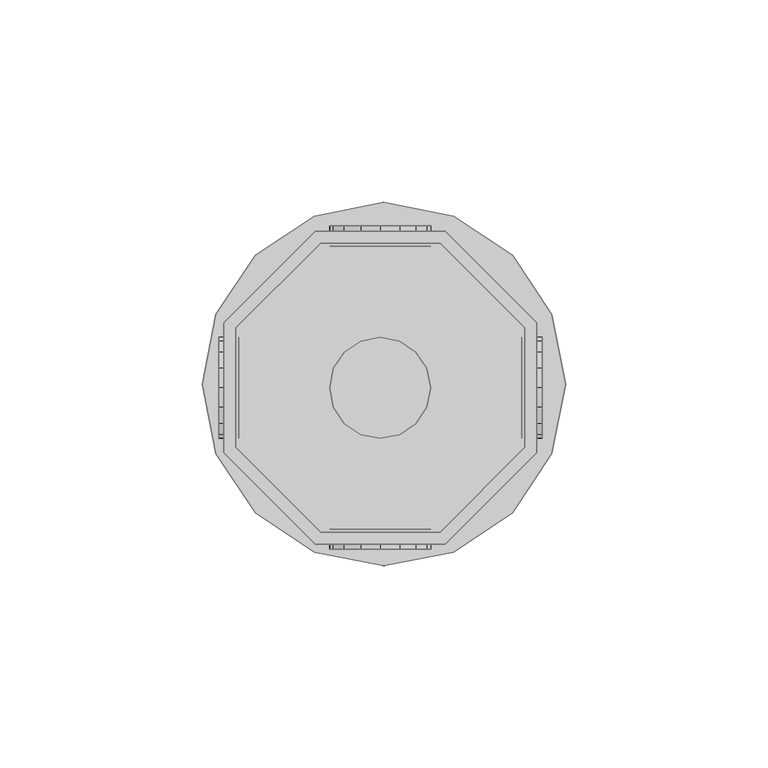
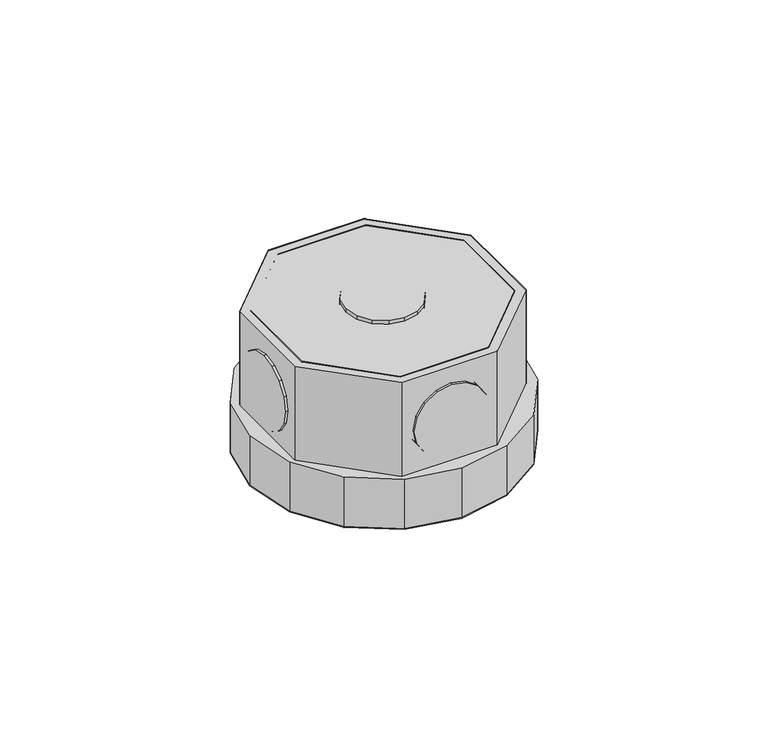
"""IFC4 building model written with IfcOpenShell, lengths in millimetres: light fixture geometry,  213356 :  213356."""

from ifc_helpers import new_model, si_unit, origin, place, context, project, spatial, triangles, source, transform, mapped, element, save


def light_fixture_225ae7b1(model_context):
    return source(origin(), model_context, "Body", "Tessellation", [
        triangles([(13764.500528, 16539.5997437, 2924.5999741), (13764.500528, 16510.0003876, 2975.400071), (13764.500528, 16510.0003876, 2924.5999741), (13764.500528, 16539.5997437, 2975.400071), (13838.999469, 16540.7996704, 2924.5999741), (13838.999469, 16508.7004669, 2975.400071), (13838.999469, 16508.7004669, 2924.5999741), (13838.999469, 16540.7996704, 2975.400071), (13785.5004089, 16489.0005066, 2975.400071), (13785.5004089, 16489.0005066, 2924.5999741), (13816.2996918, 16563.4994476, 2924.5999741), (13816.2996918, 16563.4994476, 2975.400071), (13815.099765, 16489.0005066, 2975.400071), (13815.099765, 16489.0005066, 2924.5999741), (13784.2004883, 16563.4994476, 2924.5999741), (13784.2004883, 16563.4994476, 2975.400071), (13835.9996521, 16510.0003876, 2975.400071), (13835.9996521, 16510.0003876, 2924.5999741), (13761.4995483, 16540.7996704, 2924.5999741), (13761.4995483, 16540.7996704, 2975.400071), (13835.9996521, 16539.5997437, 2924.5999741), (13835.9996521, 16539.5997437, 2975.400071), (13761.4995483, 16508.7004669, 2975.400071), (13761.4995483, 16508.7004669, 2924.5999741), (13815.099765, 16560.4996307, 2924.5999741), (13815.099765, 16560.4996307, 2975.400071), (13784.2004883, 16485.999527, 2975.400071), (13784.2004883, 16485.999527, 2924.5999741), (13816.2996918, 16485.999527, 2975.400071), (13785.5004089, 16560.4996307, 2975.400071), (13785.5004089, 16560.4996307, 2924.5999741), (13816.2996918, 16485.999527, 2924.5999741), (13815.099765, 16489.0005066, 2972.3999634), (13835.9996521, 16510.0003876, 2972.3999634), (13835.9996521, 16539.5997437, 2972.3999634), (13815.099765, 16560.4996307, 2972.3999634), (13785.5004089, 16560.4996307, 2972.3999634), (13764.500528, 16539.5997437, 2972.3999634), (13764.500528, 16510.0003876, 2972.3999634), (13785.5004089, 16489.0005066, 2972.3999634), (13784.2004883, 16485.999527, 2942.4000504), (13761.4995483, 16508.7004669, 2942.4000504), (13761.4995483, 16540.7996704, 2942.4000504), (13784.2004883, 16563.4994476, 2942.4000504), (13816.2996918, 16563.4994476, 2942.4000504), (13838.999469, 16540.7996704, 2942.4000504), (13838.999469, 16508.7004669, 2942.4000504), (13816.2996918, 16485.999527, 2942.4000504), (13842.7004059, 16508.4004852, 2942.4000504), (13818.3995636, 16484.0996429, 2942.4000504), (13832.9998352, 16493.8002136, 2942.4000504), (13801.1994507, 16480.6998505, 2942.4000504), (13783.9005066, 16484.0996429, 2942.4000504), (13769.300235, 16493.8002136, 2942.4000504), (13759.5996643, 16508.4004852, 2942.4000504), (13756.1998718, 16525.6994293, 2942.4000504), (13759.5996643, 16542.8995422, 2942.4000504), (13783.9005066, 16567.2003845, 2942.4000504), (13769.300235, 16557.4998138, 2942.4000504), (13846.2001923, 16525.6994293, 2942.4000504), (13842.7004059, 16542.8995422, 2942.4000504), (13832.9998352, 16557.4998138, 2942.4000504), (13818.3995636, 16567.2003845, 2942.4000504), (13801.1994507, 16570.7001709, 2942.4000504), (13818.3995636, 16484.0996429, 2924.5999741), (13842.7004059, 16508.4004852, 2924.5999741), (13832.9998352, 16493.8002136, 2924.5999741), (13801.1994507, 16480.6998505, 2924.5999741), (13783.9005066, 16484.0996429, 2924.5999741), (13769.300235, 16493.8002136, 2924.5999741), (13759.5996643, 16508.4004852, 2924.5999741), (13756.1998718, 16525.6994293, 2924.5999741), (13759.5996643, 16542.8995422, 2924.5999741), (13783.9005066, 16567.2003845, 2924.5999741), (13769.300235, 16557.4998138, 2924.5999741), (13846.2001923, 16525.6994293, 2924.5999741), (13842.7004059, 16542.8995422, 2924.5999741), (13832.9998352, 16557.4998138, 2924.5999741), (13818.3995636, 16567.2003845, 2924.5999741), (13801.1994507, 16570.7001709, 2924.5999741), (13760.2996216, 16513.2001923, 2952.6000092), (13760.2996216, 16519.9997772, 2945.9001274), (13760.2996216, 16515.9000275, 2948.5999626), (13760.2996216, 16512.3002472, 2957.4000069), (13760.2996216, 16524.7994843, 2944.8998978), (13760.2996216, 16513.2001923, 2962.2000046), (13760.2996216, 16529.600354, 2945.9001274), (13760.2996216, 16515.9000275, 2966.2000511), (13760.2996216, 16533.6001099, 2948.5999626), (13760.2996216, 16519.9997772, 2968.8998863), (13760.2996216, 16536.2999451, 2952.6000092), (13760.2996216, 16524.7994843, 2969.900116), (13760.2996216, 16537.299884, 2957.4000069), (13760.2996216, 16529.600354, 2968.8998863), (13760.2996216, 16536.2999451, 2962.2000046), (13760.2996216, 16533.6001099, 2966.2000511), (13765.3004791, 16519.9997772, 2945.9001274), (13765.3004791, 16513.2001923, 2952.6000092), (13765.3004791, 16515.9000275, 2948.5999626), (13765.3004791, 16524.7994843, 2944.8998978), (13765.3004791, 16512.3002472, 2957.4000069), (13765.3004791, 16529.600354, 2945.9001274), (13765.3004791, 16513.2001923, 2962.2000046), (13765.3004791, 16533.6001099, 2948.5999626), (13765.3004791, 16515.9000275, 2966.2000511), (13765.3004791, 16519.9997772, 2968.8998863), (13765.3004791, 16536.2999451, 2952.6000092), (13765.3004791, 16524.7994843, 2969.900116), (13765.3004791, 16537.299884, 2957.4000069), (13765.3004791, 16529.600354, 2968.8998863), (13765.3004791, 16536.2999451, 2962.2000046), (13765.3004791, 16533.6001099, 2966.2000511), (13835.2996948, 16513.2001923, 2952.6000092), (13835.2996948, 16519.9997772, 2945.9001274), (13835.2996948, 16515.9000275, 2948.5999626), (13835.2996948, 16512.3002472, 2957.4000069), (13835.2996948, 16524.7994843, 2944.8998978), (13835.2996948, 16513.2001923, 2962.2000046), (13835.2996948, 16529.600354, 2945.9001274), (13835.2996948, 16515.9000275, 2966.2000511), (13835.2996948, 16533.6001099, 2948.5999626), (13835.2996948, 16519.9997772, 2968.8998863), (13835.2996948, 16536.2999451, 2952.6000092), (13835.2996948, 16524.7994843, 2969.900116), (13835.2996948, 16537.299884, 2957.4000069), (13835.2996948, 16529.600354, 2968.8998863), (13835.2996948, 16536.2999451, 2962.2000046), (13835.2996948, 16533.6001099, 2966.2000511), (13840.3005524, 16519.9997772, 2945.9001274), (13840.3005524, 16513.2001923, 2952.6000092), (13840.3005524, 16515.9000275, 2948.5999626), (13840.3005524, 16524.7994843, 2944.8998978), (13840.3005524, 16512.3002472, 2957.4000069), (13840.3005524, 16529.600354, 2945.9001274), (13840.3005524, 16513.2001923, 2962.2000046), (13840.3005524, 16533.6001099, 2948.5999626), (13840.3005524, 16515.9000275, 2966.2000511), (13840.3005524, 16519.9997772, 2968.8998863), (13840.3005524, 16536.2999451, 2952.6000092), (13840.3005524, 16524.7994843, 2969.900116), (13840.3005524, 16537.299884, 2957.4000069), (13840.3005524, 16529.600354, 2968.8998863), (13840.3005524, 16536.2999451, 2962.2000046), (13840.3005524, 16533.6001099, 2966.2000511), (13805.1003754, 16489.8004578, 2945.9001274), (13811.7999664, 16489.8004578, 2952.6000092), (13809.1001312, 16489.8004578, 2948.5999626), (13800.2995056, 16489.8004578, 2944.8998978), (13812.7999054, 16489.8004578, 2957.4000069), (13795.4997986, 16489.8004578, 2945.9001274), (13811.7999664, 16489.8004578, 2962.2000046), (13791.4000488, 16489.8004578, 2948.5999626), (13809.1001312, 16489.8004578, 2966.2000511), (13805.1003754, 16489.8004578, 2968.8998863), (13788.7002136, 16489.8004578, 2952.6000092), (13800.2995056, 16489.8004578, 2969.900116), (13787.8002686, 16489.8004578, 2957.4000069), (13795.4997986, 16489.8004578, 2968.8998863), (13788.7002136, 16489.8004578, 2962.2000046), (13791.4000488, 16489.8004578, 2966.2000511), (13811.7999664, 16484.7996002, 2952.6000092), (13805.1003754, 16484.7996002, 2945.9001274), (13809.1001312, 16484.7996002, 2948.5999626), (13812.7999054, 16484.7996002, 2957.4000069), (13800.2995056, 16484.7996002, 2944.8998978), (13811.7999664, 16484.7996002, 2962.2000046), (13795.4997986, 16484.7996002, 2945.9001274), (13809.1001312, 16484.7996002, 2966.2000511), (13791.4000488, 16484.7996002, 2948.5999626), (13805.1003754, 16484.7996002, 2968.8998863), (13788.7002136, 16484.7996002, 2952.6000092), (13800.2995056, 16484.7996002, 2969.900116), (13787.8002686, 16484.7996002, 2957.4000069), (13795.4997986, 16484.7996002, 2968.8998863), (13788.7002136, 16484.7996002, 2962.2000046), (13791.4000488, 16484.7996002, 2966.2000511), (13805.1003754, 16564.800531, 2945.9001274), (13811.7999664, 16564.800531, 2952.6000092), (13809.1001312, 16564.800531, 2948.5999626), (13800.2995056, 16564.800531, 2944.8998978), (13812.7999054, 16564.800531, 2957.4000069), (13795.4997986, 16564.800531, 2945.9001274), (13811.7999664, 16564.800531, 2962.2000046), (13791.4000488, 16564.800531, 2948.5999626), (13809.1001312, 16564.800531, 2966.2000511), (13805.1003754, 16564.800531, 2968.8998863), (13788.7002136, 16564.800531, 2952.6000092), (13800.2995056, 16564.800531, 2969.900116), (13787.8002686, 16564.800531, 2957.4000069), (13795.4997986, 16564.800531, 2968.8998863), (13788.7002136, 16564.800531, 2962.2000046), (13791.4000488, 16564.800531, 2966.2000511), (13811.7999664, 16559.7996735, 2952.6000092), (13805.1003754, 16559.7996735, 2945.9001274), (13809.1001312, 16559.7996735, 2948.5999626), (13812.7999054, 16559.7996735, 2957.4000069), (13800.2995056, 16559.7996735, 2944.8998978), (13811.7999664, 16559.7996735, 2962.2000046), (13795.4997986, 16559.7996735, 2945.9001274), (13809.1001312, 16559.7996735, 2966.2000511), (13791.4000488, 16559.7996735, 2948.5999626), (13805.1003754, 16559.7996735, 2968.8998863), (13788.7002136, 16559.7996735, 2952.6000092), (13800.2995056, 16559.7996735, 2969.900116), (13787.8002686, 16559.7996735, 2957.4000069), (13795.4997986, 16559.7996735, 2968.8998863), (13788.7002136, 16559.7996735, 2962.2000046), (13791.4000488, 16559.7996735, 2966.2000511), (13811.7999664, 16519.9997772, 2976.9999733), (13805.1003754, 16513.2001923, 2976.9999733), (13809.1001312, 16515.9000275, 2976.9999733), (13800.2995056, 16512.3002472, 2976.9999733), (13812.7999054, 16524.7994843, 2976.9999733), (13795.4997986, 16513.2001923, 2976.9999733), (13811.7999664, 16529.600354, 2976.9999733), (13791.4000488, 16515.9000275, 2976.9999733), (13809.1001312, 16533.6001099, 2976.9999733), (13788.7002136, 16519.9997772, 2976.9999733), (13805.1003754, 16536.2999451, 2976.9999733), (13787.8002686, 16524.7994843, 2976.9999733), (13800.2995056, 16537.299884, 2976.9999733), (13788.7002136, 16529.600354, 2976.9999733), (13795.4997986, 16536.2999451, 2976.9999733), (13791.4000488, 16533.6001099, 2976.9999733), (13805.1003754, 16513.2001923, 2971.9999878), (13811.7999664, 16519.9997772, 2971.9999878), (13809.1001312, 16515.9000275, 2971.9999878), (13800.2995056, 16512.3002472, 2971.9999878), (13812.7999054, 16524.7994843, 2971.9999878), (13795.4997986, 16513.2001923, 2971.9999878), (13811.7999664, 16529.600354, 2971.9999878), (13791.4000488, 16515.9000275, 2971.9999878), (13809.1001312, 16533.6001099, 2971.9999878), (13788.7002136, 16519.9997772, 2971.9999878), (13805.1003754, 16536.2999451, 2971.9999878), (13787.8002686, 16524.7994843, 2971.9999878), (13800.2995056, 16537.299884, 2971.9999878), (13788.7002136, 16529.600354, 2971.9999878), (13795.4997986, 16536.2999451, 2971.9999878), (13791.4000488, 16533.6001099, 2971.9999878)], [[1, 2, 3], [2, 1, 4], [5, 6, 7], [6, 5, 8], [3, 9, 10], [9, 3, 2], [11, 8, 5], [8, 11, 12], [10, 13, 14], [13, 10, 9], [15, 12, 11], [12, 15, 16], [14, 17, 18], [17, 14, 13], [19, 16, 15], [16, 19, 20], [17, 21, 18], [21, 17, 22], [23, 19, 24], [19, 23, 20], [22, 25, 21], [25, 22, 26], [27, 24, 28], [24, 27, 23], [6, 13, 29], [29, 13, 27], [27, 13, 9], [27, 9, 23], [23, 9, 2], [23, 2, 4], [23, 4, 20], [20, 4, 30], [8, 17, 6], [6, 17, 13], [17, 8, 22], [12, 22, 8], [22, 12, 26], [30, 26, 12], [16, 30, 12], [20, 30, 16], [30, 1, 31], [1, 30, 4], [6, 32, 7], [32, 6, 29], [32, 14, 7], [28, 14, 32], [14, 28, 10], [24, 10, 28], [10, 24, 3], [1, 3, 24], [19, 1, 24], [31, 1, 19], [7, 18, 5], [14, 18, 7], [5, 18, 21], [5, 21, 11], [11, 21, 25], [11, 25, 31], [11, 31, 15], [15, 31, 19], [26, 31, 25], [31, 26, 30], [29, 28, 32], [28, 29, 27], [17, 33, 34], [33, 17, 13], [35, 17, 34], [17, 35, 22], [36, 22, 35], [22, 36, 26], [37, 26, 36], [26, 37, 30], [38, 30, 37], [30, 38, 4], [2, 38, 39], [38, 2, 4], [17, 9, 13], [9, 17, 22], [9, 22, 2], [2, 22, 26], [2, 26, 4], [4, 26, 30], [13, 40, 33], [40, 13, 9], [40, 34, 33], [35, 34, 40], [35, 40, 39], [35, 39, 36], [36, 39, 38], [36, 38, 37], [9, 39, 40], [39, 9, 2], [24, 41, 28], [41, 24, 42], [19, 42, 24], [42, 19, 43], [44, 19, 15], [19, 44, 43], [45, 15, 11], [15, 45, 44], [46, 11, 5], [11, 46, 45], [47, 5, 7], [5, 47, 46], [32, 47, 7], [47, 32, 48], [28, 48, 32], [48, 28, 41], [49, 50, 51], [48, 50, 49], [50, 48, 52], [41, 52, 48], [52, 41, 53], [53, 41, 54], [42, 54, 41], [54, 42, 55], [55, 42, 43], [55, 43, 56], [56, 43, 57], [57, 43, 44], [57, 44, 58], [57, 58, 59], [47, 49, 60], [49, 47, 48], [47, 60, 46], [61, 46, 60], [46, 61, 62], [46, 62, 45], [45, 62, 63], [44, 45, 63], [44, 63, 64], [44, 64, 58], [65, 66, 67], [66, 65, 32], [68, 32, 65], [32, 68, 28], [28, 68, 69], [70, 28, 69], [28, 70, 24], [71, 24, 70], [19, 24, 71], [19, 71, 72], [73, 19, 72], [19, 73, 15], [74, 15, 73], [74, 73, 75], [76, 66, 7], [32, 7, 66], [5, 76, 7], [76, 5, 77], [77, 5, 78], [11, 78, 5], [78, 11, 79], [79, 11, 15], [79, 15, 80], [80, 15, 74], [57, 75, 73], [75, 57, 59], [56, 73, 72], [73, 56, 57], [55, 72, 71], [72, 55, 56], [54, 71, 70], [71, 54, 55], [53, 70, 69], [70, 53, 54], [52, 69, 68], [69, 52, 53], [50, 68, 65], [68, 50, 52], [51, 65, 67], [65, 51, 50], [66, 51, 67], [51, 66, 49], [76, 49, 66], [49, 76, 60], [77, 60, 76], [60, 77, 61], [78, 61, 77], [61, 78, 62], [79, 62, 78], [62, 79, 63], [80, 63, 79], [63, 80, 64], [75, 58, 74], [58, 75, 59], [74, 64, 80], [64, 74, 58], [81, 82, 83], [82, 81, 84], [85, 82, 84], [85, 84, 86], [87, 85, 86], [87, 86, 88], [87, 88, 89], [89, 88, 90], [89, 90, 91], [91, 90, 92], [91, 92, 93], [93, 92, 94], [93, 94, 95], [95, 94, 96], [97, 98, 99], [98, 97, 100], [101, 98, 100], [101, 100, 102], [103, 101, 102], [103, 102, 104], [103, 104, 105], [105, 104, 106], [106, 104, 107], [106, 107, 108], [108, 107, 109], [108, 109, 110], [110, 109, 111], [110, 111, 112], [87, 104, 102], [104, 87, 89], [85, 102, 100], [102, 85, 87], [82, 100, 97], [100, 82, 85], [83, 97, 99], [97, 83, 82], [98, 83, 99], [83, 98, 81], [101, 81, 98], [81, 101, 84], [103, 84, 101], [84, 103, 86], [105, 86, 103], [86, 105, 88], [106, 88, 105], [88, 106, 90], [108, 90, 106], [90, 108, 92], [110, 92, 108], [92, 110, 94], [112, 94, 110], [94, 112, 96], [95, 112, 111], [112, 95, 96], [93, 111, 109], [111, 93, 95], [89, 107, 104], [107, 89, 91], [91, 109, 107], [109, 91, 93], [113, 114, 115], [114, 113, 116], [117, 114, 116], [117, 116, 118], [119, 117, 118], [119, 118, 120], [119, 120, 121], [121, 120, 122], [121, 122, 123], [123, 122, 124], [123, 124, 125], [125, 124, 126], [125, 126, 127], [127, 126, 128], [129, 130, 131], [130, 129, 132], [133, 130, 132], [133, 132, 134], [135, 133, 134], [135, 134, 136], [135, 136, 137], [137, 136, 138], [138, 136, 139], [138, 139, 140], [140, 139, 141], [140, 141, 142], [142, 141, 143], [142, 143, 144], [119, 136, 134], [136, 119, 121], [117, 134, 132], [134, 117, 119], [114, 132, 129], [132, 114, 117], [115, 129, 131], [129, 115, 114], [130, 115, 131], [115, 130, 113], [133, 113, 130], [113, 133, 116], [135, 116, 133], [116, 135, 118], [137, 118, 135], [118, 137, 120], [138, 120, 137], [120, 138, 122], [140, 122, 138], [122, 140, 124], [142, 124, 140], [124, 142, 126], [144, 126, 142], [126, 144, 128], [127, 144, 143], [144, 127, 128], [125, 143, 141], [143, 125, 127], [121, 139, 136], [139, 121, 123], [123, 141, 139], [141, 123, 125], [145, 146, 147], [146, 145, 148], [149, 146, 148], [149, 148, 150], [151, 149, 150], [151, 150, 152], [151, 152, 153], [153, 152, 154], [154, 152, 155], [154, 155, 156], [156, 155, 157], [156, 157, 158], [158, 157, 159], [158, 159, 160], [161, 162, 163], [162, 161, 164], [165, 162, 164], [165, 164, 166], [167, 165, 166], [167, 166, 168], [169, 167, 168], [169, 168, 170], [169, 170, 171], [171, 170, 172], [171, 172, 173], [173, 172, 174], [173, 174, 175], [175, 174, 176], [158, 176, 174], [176, 158, 160], [156, 174, 172], [174, 156, 158], [154, 172, 170], [172, 154, 156], [153, 170, 168], [170, 153, 154], [151, 168, 166], [168, 151, 153], [149, 166, 164], [166, 149, 151], [146, 164, 161], [164, 146, 149], [147, 161, 163], [161, 147, 146], [162, 147, 163], [147, 162, 145], [165, 145, 162], [145, 165, 148], [167, 148, 165], [148, 167, 150], [169, 150, 167], [150, 169, 152], [171, 152, 169], [152, 171, 155], [173, 155, 171], [155, 173, 157], [176, 159, 175], [159, 176, 160], [175, 157, 173], [157, 175, 159], [177, 178, 179], [178, 177, 180], [181, 178, 180], [181, 180, 182], [183, 181, 182], [183, 182, 184], [183, 184, 185], [185, 184, 186], [186, 184, 187], [186, 187, 188], [188, 187, 189], [188, 189, 190], [190, 189, 191], [190, 191, 192], [193, 194, 195], [194, 193, 196], [197, 194, 196], [197, 196, 198], [199, 197, 198], [199, 198, 200], [201, 199, 200], [201, 200, 202], [201, 202, 203], [203, 202, 204], [203, 204, 205], [205, 204, 206], [205, 206, 207], [207, 206, 208], [190, 208, 206], [208, 190, 192], [188, 206, 204], [206, 188, 190], [186, 204, 202], [204, 186, 188], [185, 202, 200], [202, 185, 186], [183, 200, 198], [200, 183, 185], [181, 198, 196], [198, 181, 183], [178, 196, 193], [196, 178, 181], [179, 193, 195], [193, 179, 178], [194, 179, 195], [179, 194, 177], [197, 177, 194], [177, 197, 180], [199, 180, 197], [180, 199, 182], [201, 182, 199], [182, 201, 184], [203, 184, 201], [184, 203, 187], [205, 187, 203], [187, 205, 189], [208, 191, 207], [191, 208, 192], [207, 189, 205], [189, 207, 191], [209, 210, 211], [212, 210, 209], [212, 209, 213], [214, 212, 213], [214, 213, 215], [216, 214, 215], [216, 215, 217], [216, 217, 218], [218, 217, 219], [218, 219, 220], [220, 219, 221], [220, 221, 222], [222, 221, 223], [222, 223, 224], [225, 226, 227], [226, 225, 228], [229, 226, 228], [229, 228, 230], [231, 229, 230], [231, 230, 232], [231, 232, 233], [233, 232, 234], [233, 234, 235], [235, 234, 236], [235, 236, 237], [237, 236, 238], [237, 238, 239], [239, 238, 240], [222, 240, 238], [240, 222, 224], [220, 238, 236], [238, 220, 222], [218, 236, 234], [236, 218, 220], [216, 234, 232], [234, 216, 218], [214, 232, 230], [232, 214, 216], [212, 230, 228], [230, 212, 214], [210, 228, 225], [228, 210, 212], [211, 225, 227], [225, 211, 210], [226, 211, 227], [211, 226, 209], [229, 209, 226], [209, 229, 213], [231, 213, 229], [213, 231, 215], [233, 215, 231], [215, 233, 217], [235, 217, 233], [217, 235, 219], [237, 219, 235], [219, 237, 221], [240, 223, 239], [223, 240, 224], [239, 221, 237], [221, 239, 223]], closed=False),
    ])


if __name__ == "__main__":
    model = new_model("IFC4")
    model_context = context("Model", 3, world=origin())
    ifc_project = project(units=[si_unit("LENGTHUNIT", "METRE", prefix="MILLI")], contexts=[model_context])
    site = spatial("IfcSite", under=ifc_project)
    building = spatial("IfcBuilding", under=site)
    placement = place(None, origin())
    light_fixture_shape = light_fixture_225ae7b1(model_context)
    element("IfcLightFixture", 1, ObjectType=" 213356 :  213356", at=placement, inside=building, context=model_context, shape_type="MappedRepresentation", body=[
        mapped(light_fixture_shape, transform((0.0, 0.0, 0.0), x_axis=(1.0, 0.0, 0.0), y_axis=(0.0, 1.0, 0.0), z_axis=(0.0, 0.0, 1.0))),
    ])
    save(model, "model.ifc")
